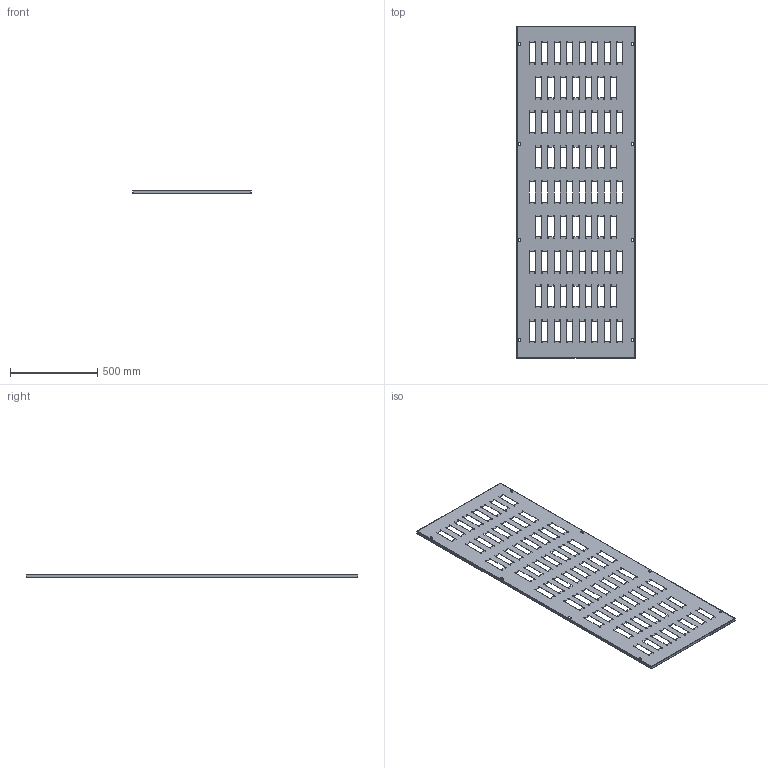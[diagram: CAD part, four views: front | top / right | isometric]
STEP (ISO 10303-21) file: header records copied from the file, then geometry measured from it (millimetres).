
FILE_DESCRIPTION (( 'STEP AP203' ), '1' );
FILE_NAME ('EUD4-080200.STEP', '2015-03-09T14:01:52', ( 'Admin' ), ( '' ), 'SwSTEP 2.0', 'SolidWorks 2014', '' );
FILE_SCHEMA (( 'CONFIG_CONTROL_DESIGN' ));
Length unit declared in the file: millimetre
Products named in the file (1): EUD4-080200
Bounding box: 680 x 1908 x 16 mm (x, y, z)
Volume: 1623475.7 mm3; surface area: 2208060.2 mm2
Topology: 1 solids, 1 shells, 867 faces, 2584 edges, 1720 vertices
Faces by surface type: cylinder 568, plane 299
Entity records: 31065 total; most frequent: DIRECTION 5430, CARTESIAN_POINT 5202, ORIENTED_EDGE 5168, EDGE_CURVE 2584, AXIS2_PLACEMENT_3D 1988, VERTEX_POINT 1720, EDGE_LOOP 1564, LINE 1454
